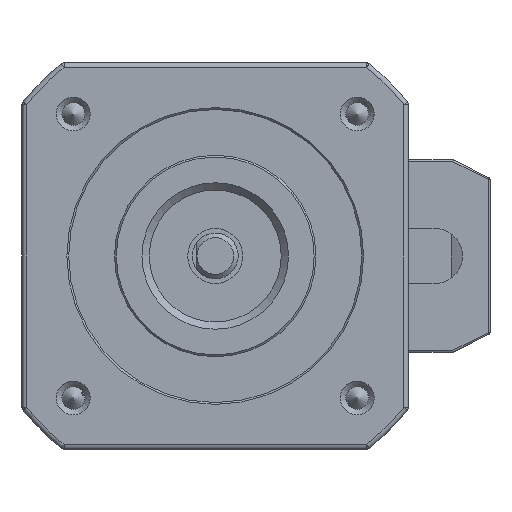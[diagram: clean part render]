
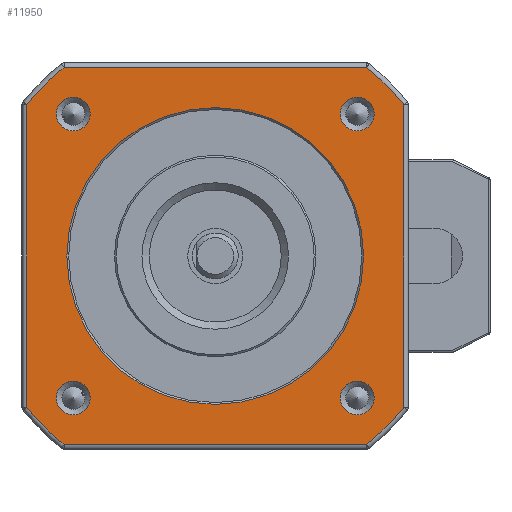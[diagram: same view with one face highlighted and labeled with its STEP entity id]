
A CAD part, left-side view. The second image highlights one B-rep face of the part: STEP entity #11950.
In plain terms, the highlighted planar face has unit normal (-1, 0, 0).
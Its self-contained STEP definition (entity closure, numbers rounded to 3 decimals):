
#87 = DIRECTION ( 'NONE',  ( 0., 0., -1. ) ) ;
#284 = CARTESIAN_POINT ( 'NONE',  ( 0., -16.685, -20.6 ) ) ;
#286 = VECTOR ( 'NONE', #13651, 1000. ) ;
#313 = VECTOR ( 'NONE', #87, 1000. ) ;
#640 = FACE_BOUND ( 'NONE', #5944, .T. ) ;
#850 = CIRCLE ( 'NONE', #10848, 16.2 ) ;
#1394 = VERTEX_POINT ( 'NONE', #7039 ) ;
#1500 = EDGE_CURVE ( 'NONE', #13188, #13188, #8655, .T. ) ;
#1569 = ORIENTED_EDGE ( 'NONE', *, *, #12444, .T. ) ;
#1578 = CARTESIAN_POINT ( 'NONE',  ( 0., -15.5, 13.65 ) ) ;
#1658 = AXIS2_PLACEMENT_3D ( 'NONE', #9187, #10378, #10279 ) ;
#1702 = DIRECTION ( 'NONE',  ( -1., 0., 0. ) ) ;
#1872 = DIRECTION ( 'NONE',  ( 1., 0., 0. ) ) ;
#1885 = CARTESIAN_POINT ( 'NONE',  ( 0., 16., 0. ) ) ;
#1887 = DIRECTION ( 'NONE',  ( 0., 0., -1. ) ) ;
#1890 = AXIS2_PLACEMENT_3D ( 'NONE', #6706, #5495, #8066 ) ;
#1934 = VERTEX_POINT ( 'NONE', #2157 ) ;
#1947 = ORIENTED_EDGE ( 'NONE', *, *, #15353, .T. ) ;
#2157 = CARTESIAN_POINT ( 'NONE',  ( 0., 16.511, -20.6 ) ) ;
#2674 = AXIS2_PLACEMENT_3D ( 'NONE', #9903, #8802, #2785 ) ;
#2743 = ORIENTED_EDGE ( 'NONE', *, *, #8763, .T. ) ;
#2785 = DIRECTION ( 'NONE',  ( 0., 0., -1. ) ) ;
#2949 = CARTESIAN_POINT ( 'NONE',  ( 0., -20.6, -16.511 ) ) ;
#3097 = DIRECTION ( 'NONE',  ( 0., 0., -1. ) ) ;
#3164 = EDGE_CURVE ( 'NONE', #6075, #12671, #6698, .T. ) ;
#3335 = CARTESIAN_POINT ( 'NONE',  ( 0., -20.6, 16.685 ) ) ;
#3369 = VERTEX_POINT ( 'NONE', #7765 ) ;
#3492 = LINE ( 'NONE', #7721, #286 ) ;
#3583 = LINE ( 'NONE', #284, #11286 ) ;
#3704 = CIRCLE ( 'NONE', #3882, 26.4 ) ;
#3882 = AXIS2_PLACEMENT_3D ( 'NONE', #7833, #1702, #12507 ) ;
#4210 = ORIENTED_EDGE ( 'NONE', *, *, #9497, .T. ) ;
#4245 = AXIS2_PLACEMENT_3D ( 'NONE', #14527, #8581, #6089 ) ;
#4499 = ORIENTED_EDGE ( 'NONE', *, *, #12866, .T. ) ;
#4640 = EDGE_CURVE ( 'NONE', #7558, #12693, #3704, .T. ) ;
#4651 = DIRECTION ( 'NONE',  ( 0., 0., 1. ) ) ;
#4702 = ORIENTED_EDGE ( 'NONE', *, *, #3164, .T. ) ;
#4779 = EDGE_CURVE ( 'NONE', #6960, #7558, #11405, .T. ) ;
#4797 = CARTESIAN_POINT ( 'NONE',  ( 0., -15.5, 15.5 ) ) ;
#5055 = ORIENTED_EDGE ( 'NONE', *, *, #5883, .T. ) ;
#5182 = EDGE_CURVE ( 'NONE', #7500, #7500, #850, .T. ) ;
#5495 = DIRECTION ( 'NONE',  ( 1., 0., 0. ) ) ;
#5677 = VERTEX_POINT ( 'NONE', #12599 ) ;
#5883 = EDGE_CURVE ( 'NONE', #1394, #6960, #8756, .T. ) ;
#5944 = EDGE_LOOP ( 'NONE', ( #10115 ) ) ;
#5986 = DIRECTION ( 'NONE',  ( 1., 0., 0. ) ) ;
#6075 = VERTEX_POINT ( 'NONE', #12129 ) ;
#6089 = DIRECTION ( 'NONE',  ( 0., 0., -1. ) ) ;
#6236 = CARTESIAN_POINT ( 'NONE',  ( 0., 0., -16.2 ) ) ;
#6261 = EDGE_LOOP ( 'NONE', ( #9630 ) ) ;
#6434 = EDGE_CURVE ( 'NONE', #12693, #5677, #3492, .T. ) ;
#6698 = LINE ( 'NONE', #8446, #313 ) ;
#6706 = CARTESIAN_POINT ( 'NONE',  ( 0., 15.5, -15.5 ) ) ;
#6960 = VERTEX_POINT ( 'NONE', #2949 ) ;
#7039 = CARTESIAN_POINT ( 'NONE',  ( 0., -16.511, -20.6 ) ) ;
#7277 = DIRECTION ( 'NONE',  ( 0., 0., -1. ) ) ;
#7397 = FACE_OUTER_BOUND ( 'NONE', #15617, .T. ) ;
#7423 = DIRECTION ( 'NONE',  ( 0., -1., 0. ) ) ;
#7447 = ORIENTED_EDGE ( 'NONE', *, *, #6434, .T. ) ;
#7464 = ORIENTED_EDGE ( 'NONE', *, *, #10898, .T. ) ;
#7500 = VERTEX_POINT ( 'NONE', #6236 ) ;
#7554 = ORIENTED_EDGE ( 'NONE', *, *, #4779, .T. ) ;
#7558 = VERTEX_POINT ( 'NONE', #14088 ) ;
#7642 = CARTESIAN_POINT ( 'NONE',  ( 0., 20.6, -16.511 ) ) ;
#7721 = CARTESIAN_POINT ( 'NONE',  ( 0., 16.685, 20.6 ) ) ;
#7765 = CARTESIAN_POINT ( 'NONE',  ( 0., 15.5, -17.35 ) ) ;
#7820 = AXIS2_PLACEMENT_3D ( 'NONE', #4797, #5986, #1887 ) ;
#7833 = CARTESIAN_POINT ( 'NONE',  ( 0., 0., 0. ) ) ;
#7876 = DIRECTION ( 'NONE',  ( 1., 0., 0. ) ) ;
#8066 = DIRECTION ( 'NONE',  ( 0., 0., -1. ) ) ;
#8147 = CIRCLE ( 'NONE', #14092, 26.4 ) ;
#8164 = FACE_BOUND ( 'NONE', #6261, .T. ) ;
#8446 = CARTESIAN_POINT ( 'NONE',  ( 0., 20.6, -16.685 ) ) ;
#8581 = DIRECTION ( 'NONE',  ( -1., 0., 0. ) ) ;
#8655 = CIRCLE ( 'NONE', #7820, 1.85 ) ;
#8756 = CIRCLE ( 'NONE', #1658, 26.4 ) ;
#8763 = EDGE_CURVE ( 'NONE', #5677, #6075, #13961, .T. ) ;
#8790 = VECTOR ( 'NONE', #4651, 1000. ) ;
#8802 = DIRECTION ( 'NONE',  ( 1., 0., 0. ) ) ;
#8803 = EDGE_LOOP ( 'NONE', ( #1947 ) ) ;
#9187 = CARTESIAN_POINT ( 'NONE',  ( 0., 0., 0. ) ) ;
#9233 = ORIENTED_EDGE ( 'NONE', *, *, #4640, .T. ) ;
#9234 = CIRCLE ( 'NONE', #13734, 1.85 ) ;
#9497 = EDGE_CURVE ( 'NONE', #1934, #1394, #3583, .T. ) ;
#9630 = ORIENTED_EDGE ( 'NONE', *, *, #5182, .T. ) ;
#9668 = CIRCLE ( 'NONE', #1890, 1.85 ) ;
#9695 = EDGE_LOOP ( 'NONE', ( #7464 ) ) ;
#9903 = CARTESIAN_POINT ( 'NONE',  ( 0., 15.5, 15.5 ) ) ;
#10115 = ORIENTED_EDGE ( 'NONE', *, *, #1500, .T. ) ;
#10279 = DIRECTION ( 'NONE',  ( 0., 0., -1. ) ) ;
#10340 = DIRECTION ( 'NONE',  ( 0., 0., -1. ) ) ;
#10378 = DIRECTION ( 'NONE',  ( -1., 0., 0. ) ) ;
#10848 = AXIS2_PLACEMENT_3D ( 'NONE', #13784, #1872, #10340 ) ;
#10898 = EDGE_CURVE ( 'NONE', #11457, #11457, #12963, .T. ) ;
#11032 = CARTESIAN_POINT ( 'NONE',  ( 0., 0., 0. ) ) ;
#11286 = VECTOR ( 'NONE', #7423, 1000. ) ;
#11369 = FACE_BOUND ( 'NONE', #9695, .T. ) ;
#11405 = LINE ( 'NONE', #3335, #8790 ) ;
#11407 = DIRECTION ( 'NONE',  ( 1., 0., 0. ) ) ;
#11457 = VERTEX_POINT ( 'NONE', #12469 ) ;
#11950 = ADVANCED_FACE ( 'NONE', ( #7397, #12696, #640, #11369, #12142, #8164 ), #14955, .F. ) ;
#12129 = CARTESIAN_POINT ( 'NONE',  ( 0., 20.6, 16.511 ) ) ;
#12142 = FACE_BOUND ( 'NONE', #13737, .T. ) ;
#12303 = DIRECTION ( 'NONE',  ( -1., 0., 0. ) ) ;
#12444 = EDGE_CURVE ( 'NONE', #12671, #1934, #8147, .T. ) ;
#12469 = CARTESIAN_POINT ( 'NONE',  ( 0., 15.5, 13.65 ) ) ;
#12507 = DIRECTION ( 'NONE',  ( 0., 0., -1. ) ) ;
#12599 = CARTESIAN_POINT ( 'NONE',  ( 0., 16.511, 20.6 ) ) ;
#12671 = VERTEX_POINT ( 'NONE', #7642 ) ;
#12693 = VERTEX_POINT ( 'NONE', #15038 ) ;
#12696 = FACE_BOUND ( 'NONE', #8803, .T. ) ;
#12784 = VERTEX_POINT ( 'NONE', #14953 ) ;
#12866 = EDGE_CURVE ( 'NONE', #3369, #3369, #9668, .T. ) ;
#12963 = CIRCLE ( 'NONE', #2674, 1.85 ) ;
#13188 = VERTEX_POINT ( 'NONE', #1578 ) ;
#13651 = DIRECTION ( 'NONE',  ( 0., 1., 0. ) ) ;
#13734 = AXIS2_PLACEMENT_3D ( 'NONE', #13913, #7876, #15225 ) ;
#13737 = EDGE_LOOP ( 'NONE', ( #4499 ) ) ;
#13784 = CARTESIAN_POINT ( 'NONE',  ( 0., 0., 0. ) ) ;
#13913 = CARTESIAN_POINT ( 'NONE',  ( 0., -15.5, -15.5 ) ) ;
#13961 = CIRCLE ( 'NONE', #4245, 26.4 ) ;
#14088 = CARTESIAN_POINT ( 'NONE',  ( 0., -20.6, 16.511 ) ) ;
#14092 = AXIS2_PLACEMENT_3D ( 'NONE', #11032, #12303, #7277 ) ;
#14489 = AXIS2_PLACEMENT_3D ( 'NONE', #1885, #11407, #3097 ) ;
#14527 = CARTESIAN_POINT ( 'NONE',  ( 0., 0., 0. ) ) ;
#14953 = CARTESIAN_POINT ( 'NONE',  ( 0., -15.5, -17.35 ) ) ;
#14955 = PLANE ( 'NONE',  #14489 ) ;
#15038 = CARTESIAN_POINT ( 'NONE',  ( 0., -16.511, 20.6 ) ) ;
#15225 = DIRECTION ( 'NONE',  ( 0., 0., -1. ) ) ;
#15353 = EDGE_CURVE ( 'NONE', #12784, #12784, #9234, .T. ) ;
#15617 = EDGE_LOOP ( 'NONE', ( #9233, #7447, #2743, #4702, #1569, #4210, #5055, #7554 ) ) ;
